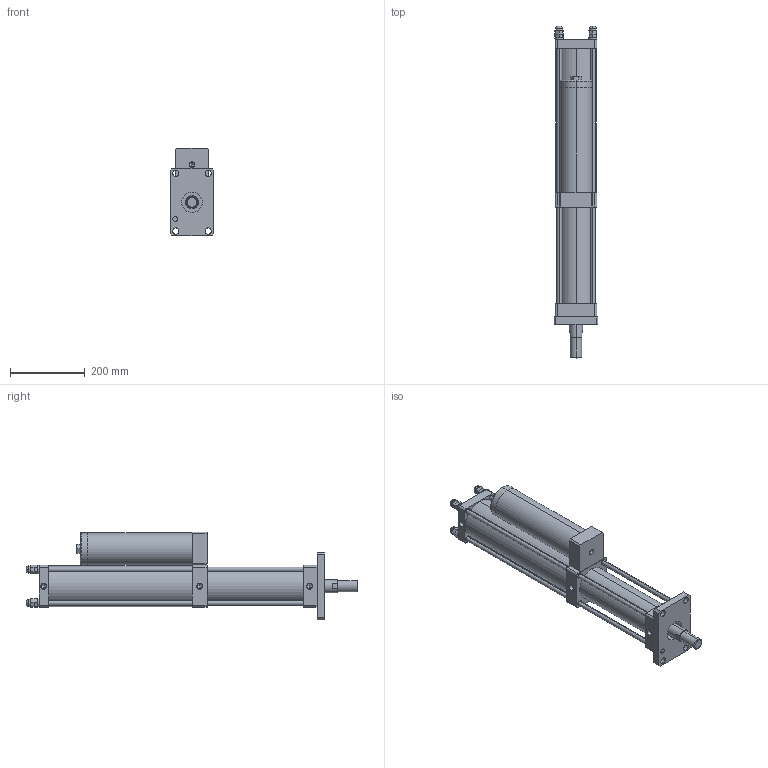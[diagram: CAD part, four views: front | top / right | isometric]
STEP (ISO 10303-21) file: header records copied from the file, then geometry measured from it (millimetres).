
FILE_DESCRIPTION (( 'STEP AP203' ), '1' );
FILE_NAME ('CPT-80-100-20-8T.STEP', '2016-03-11T03:10:31', ( 'WIN' ), ( '' ), 'SwSTEP 2.0', 'SolidWorks 2014', '' );
FILE_SCHEMA (( 'CONFIG_CONTROL_DESIGN' ));
Length unit declared in the file: millimetre
Products named in the file (1): CPT-80-100-20-8T
Bounding box: 118 x 891.07 x 235 mm (x, y, z)
Volume: 7488044 mm3; surface area: 786670.9 mm2
Topology: 17 solids, 17 shells, 389 faces, 959 edges, 560 vertices
Faces by surface type: plane 181, cylinder 90, bspline 48, torus 46, cone 24
Entity records: 12577 total; most frequent: CARTESIAN_POINT 3667, DIRECTION 1874, ORIENTED_EDGE 1786, EDGE_CURVE 893, AXIS2_PLACEMENT_3D 687, VERTEX_POINT 560, VECTOR 500, LINE 500
